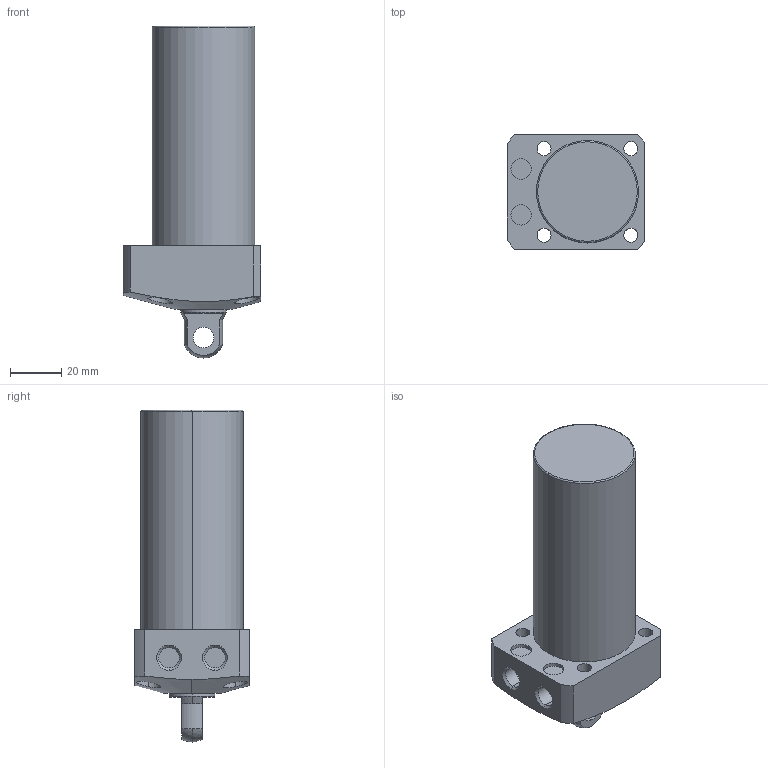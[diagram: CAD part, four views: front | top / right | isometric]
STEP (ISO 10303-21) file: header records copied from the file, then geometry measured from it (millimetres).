
FILE_DESCRIPTION (( 'STEP AP203' ), '1' );
FILE_NAME ('CLL040-CP-060.STEP', '2017-05-17T07:57:53', ( '' ), ( '' ), 'SwSTEP 2.0', 'SolidWorks 2015', '' );
FILE_SCHEMA (( 'CONFIG_CONTROL_DESIGN' ));
Length unit declared in the file: millimetre
Products named in the file (1): CLL040-CP-060
Bounding box: 54 x 45 x 130 mm (x, y, z)
Volume: 159326.1 mm3; surface area: 22820.4 mm2
Topology: 1 solids, 1 shells, 68 faces, 159 edges, 103 vertices
Faces by surface type: cylinder 35, plane 21, cone 8, sphere 2, torus 2
Entity records: 2372 total; most frequent: CARTESIAN_POINT 675, DIRECTION 357, ORIENTED_EDGE 318, EDGE_CURVE 159, AXIS2_PLACEMENT_3D 149, VERTEX_POINT 103, EDGE_LOOP 88, CIRCLE 80
